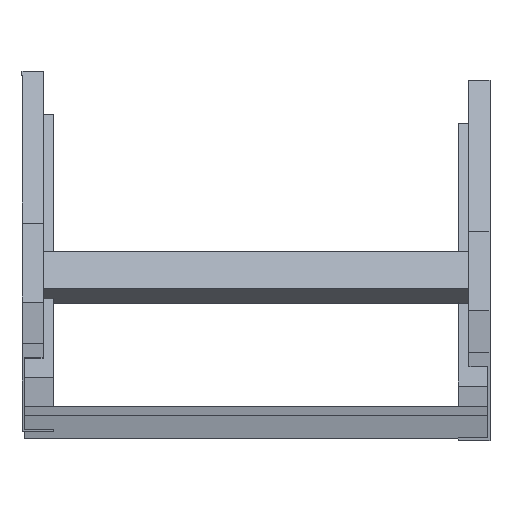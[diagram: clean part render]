
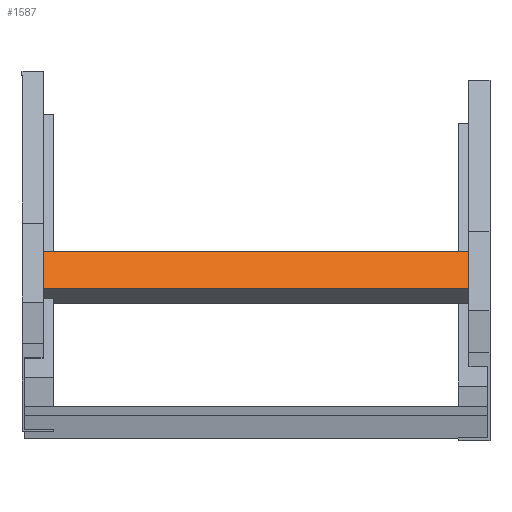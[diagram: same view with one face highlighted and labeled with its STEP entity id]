
A CAD part, top view. The second image highlights one B-rep face of the part: STEP entity #1587.
In plain terms, the highlighted planar face has unit normal (0, 0.643, 0.766) as drawn and (0, 1, 0) by its records, which use the part's own axes.
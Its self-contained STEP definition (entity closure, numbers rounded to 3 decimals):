
#146 = ORIENTED_EDGE ( 'NONE', *, *, #1619, .T. ) ;
#154 = FACE_OUTER_BOUND ( 'NONE', #580, .T. ) ;
#209 = DIRECTION ( 'NONE',  ( -1., 0., 0. ) ) ;
#220 = CARTESIAN_POINT ( 'NONE',  ( -198., 20., 20.25 ) ) ;
#236 = ORIENTED_EDGE ( 'NONE', *, *, #1548, .F. ) ;
#287 = CARTESIAN_POINT ( 'NONE',  ( 198., 20., 20.25 ) ) ;
#293 = LINE ( 'NONE', #1605, #1681 ) ;
#318 = DIRECTION ( 'NONE',  ( 0., 0., 1. ) ) ;
#379 = VERTEX_POINT ( 'NONE', #1323 ) ;
#434 = VECTOR ( 'NONE', #209, 1000. ) ;
#450 = CARTESIAN_POINT ( 'NONE',  ( 198., 20., -20.25 ) ) ;
#458 = VECTOR ( 'NONE', #805, 1000. ) ;
#538 = VERTEX_POINT ( 'NONE', #1284 ) ;
#580 = EDGE_LOOP ( 'NONE', ( #634, #842, #236, #146 ) ) ;
#600 = CARTESIAN_POINT ( 'NONE',  ( 198., 20., 20.25 ) ) ;
#634 = ORIENTED_EDGE ( 'NONE', *, *, #801, .T. ) ;
#673 = PLANE ( 'NONE',  #1302 ) ;
#674 = VECTOR ( 'NONE', #741, 1000. ) ;
#714 = DIRECTION ( 'NONE',  ( 0., 0., -1. ) ) ;
#740 = VERTEX_POINT ( 'NONE', #1486 ) ;
#741 = DIRECTION ( 'NONE',  ( 0., 0., 1. ) ) ;
#801 = EDGE_CURVE ( 'NONE', #379, #740, #1382, .T. ) ;
#805 = DIRECTION ( 'NONE',  ( -1., 0., 0. ) ) ;
#821 = VERTEX_POINT ( 'NONE', #1209 ) ;
#842 = ORIENTED_EDGE ( 'NONE', *, *, #1573, .F. ) ;
#1209 = CARTESIAN_POINT ( 'NONE',  ( 198., 20., 20.25 ) ) ;
#1242 = LINE ( 'NONE', #450, #434 ) ;
#1284 = CARTESIAN_POINT ( 'NONE',  ( 198., 20., -20.25 ) ) ;
#1302 = AXIS2_PLACEMENT_3D ( 'NONE', #600, #1372, #714 ) ;
#1323 = CARTESIAN_POINT ( 'NONE',  ( -198., 20., -20.25 ) ) ;
#1372 = DIRECTION ( 'NONE',  ( 0., -1., 0. ) ) ;
#1382 = LINE ( 'NONE', #220, #674 ) ;
#1486 = CARTESIAN_POINT ( 'NONE',  ( -198., 20., 20.25 ) ) ;
#1548 = EDGE_CURVE ( 'NONE', #538, #821, #293, .T. ) ;
#1573 = EDGE_CURVE ( 'NONE', #821, #740, #1580, .T. ) ;
#1580 = LINE ( 'NONE', #287, #458 ) ;
#1587 = ADVANCED_FACE ( 'NONE', ( #154 ), #673, .F. ) ;
#1605 = CARTESIAN_POINT ( 'NONE',  ( 198., 20., 20.25 ) ) ;
#1619 = EDGE_CURVE ( 'NONE', #538, #379, #1242, .T. ) ;
#1681 = VECTOR ( 'NONE', #318, 1000. ) ;
